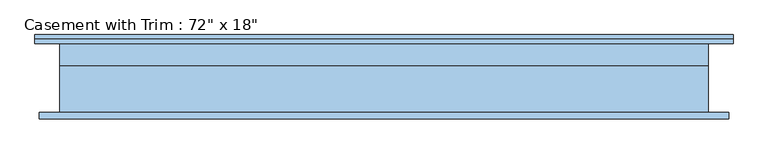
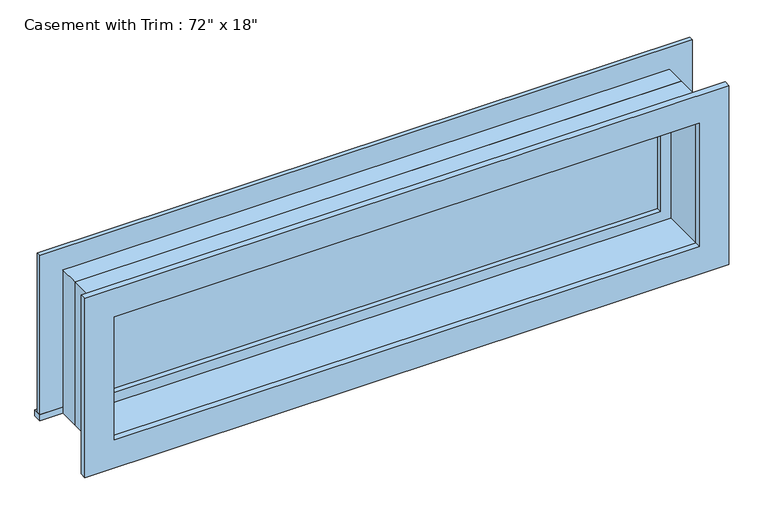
"""IFC4 building model written with IfcOpenShell, lengths in millimetres: window geometry."""

from ifc_helpers import new_model, si_unit, frame, origin, place, context, project, spatial, polyline, outline, extrude, source, transform, mapped, element, save


def window_4d68e60d(model_context):
    return source(origin(), model_context, "Body", "SweptSolid", [
        extrude(outline(polyline([(-984.25, 122.2375), (984.25, 122.2375), (984.25, 96.8375), (-984.25, 96.8375), (-984.25, 122.2375)])), frame((0.0, 0.0, 304.8), z_axis=(0.0, 0.0, 1.0), x_axis=(1.0, 0.0, 0.0)), (0.0, 0.0, 1.0), 19.05),
        extrude(outline(polyline([(742.95, -895.35), (742.95, 895.35), (323.85, 895.35), (323.85, 984.25), (831.85, 984.25), (831.85, -984.25), (323.85, -984.25), (323.85, -895.35), (742.95, -895.35)])), frame((0.0, 96.8375, 0.0), z_axis=(0.0, 1.0, 0.0), x_axis=(0.0, 0.0, 1.0)), (0.0, 0.0, 1.0), 12.7),
        extrude(outline(polyline([(819.15, 971.55), (819.15, -971.55), (247.65, -971.55), (247.65, 971.55), (819.15, 971.55)]), holes=[polyline([(730.25, 882.65), (336.55, 882.65), (336.55, -882.65), (730.25, -882.65), (730.25, 882.65)])]), frame((0.0, -115.8875, 0.0), z_axis=(0.0, 1.0, 0.0), x_axis=(0.0, 0.0, 1.0)), (0.0, 0.0, 1.0), 19.05),
        extrude(outline(polyline([(850.9, 49.2125), (-850.9, 49.2125), (-850.9, 61.9125), (850.9, 61.9125), (850.9, 49.2125)])), frame((0.0, 0.0, 368.3), z_axis=(0.0, 0.0, 1.0), x_axis=(1.0, 0.0, 0.0)), (0.0, 0.0, 1.0), 330.2),
        extrude(outline(polyline([(742.95, -895.35), (323.85, -895.35), (323.85, 895.35), (742.95, 895.35), (742.95, -895.35)]), holes=[polyline([(698.5, -850.9), (698.5, 850.9), (368.3, 850.9), (368.3, -850.9), (698.5, -850.9)])]), frame((0.0, 33.3375, 0.0), z_axis=(0.0, 1.0, 0.0), x_axis=(0.0, 0.0, 1.0)), (0.0, 0.0, 1.0), 44.45),
        extrude(outline(polyline([(762.0, -914.4), (304.8, -914.4), (304.8, 914.4), (762.0, 914.4), (762.0, -914.4)]), holes=[polyline([(730.25, -882.65), (730.25, 882.65), (336.55, 882.65), (336.55, -882.65), (730.25, -882.65)])]), frame((0.0, -96.8375, 0.0), z_axis=(0.0, 1.0, 0.0), x_axis=(0.0, 0.0, 1.0)), (0.0, 0.0, 1.0), 130.175),
        extrude(outline(polyline([(762.0, 914.4), (762.0, -914.4), (304.8, -914.4), (304.8, 914.4), (762.0, 914.4)]), holes=[polyline([(742.95, 895.35), (323.85, 895.35), (323.85, -895.35), (742.95, -895.35), (742.95, 895.35)])]), frame((0.0, 33.3375, 0.0), z_axis=(0.0, 1.0, 0.0), x_axis=(0.0, 0.0, 1.0)), (0.0, 0.0, 1.0), 63.5),
    ])


if __name__ == "__main__":
    model = new_model("IFC4")
    model_context = context("Model", 3, world=origin())
    ifc_project = project(units=[si_unit("LENGTHUNIT", "METRE", prefix="MILLI")], contexts=[model_context])
    site = spatial("IfcSite", under=ifc_project)
    building = spatial("IfcBuilding", under=site)
    placement = place(None, origin())
    window_shape = window_4d68e60d(model_context)
    element("IfcWindow", 1, ObjectType="Casement with Trim : 72\" x 18\"", at=placement, inside=building, context=model_context, shape_type="MappedRepresentation", body=[
        mapped(window_shape, transform((0.0, 0.0, 0.0), x_axis=(1.0, 0.0, 0.0), y_axis=(0.0, 1.0, 0.0), z_axis=(0.0, 0.0, 1.0))),
    ])
    save(model, "model.ifc")
